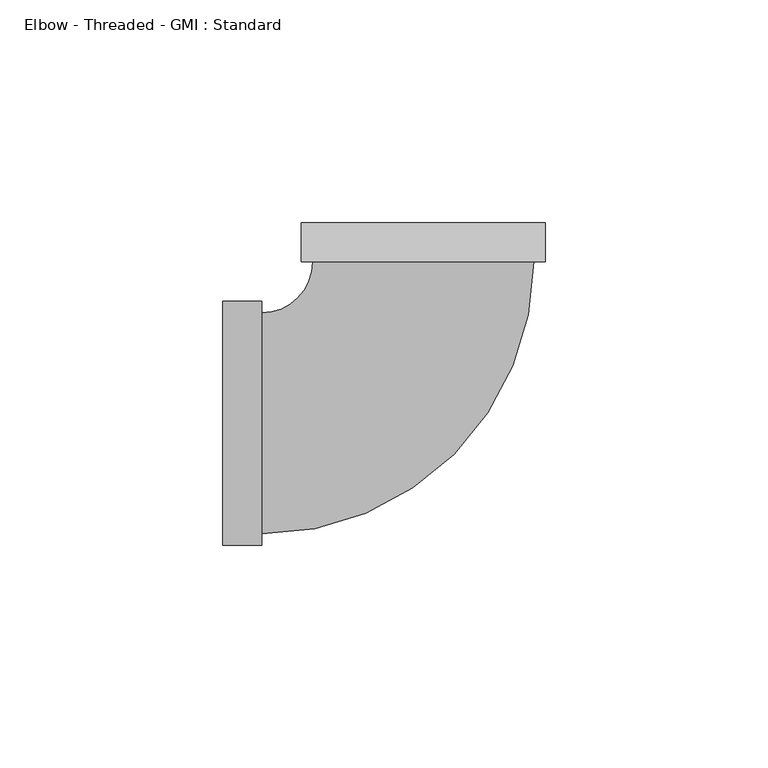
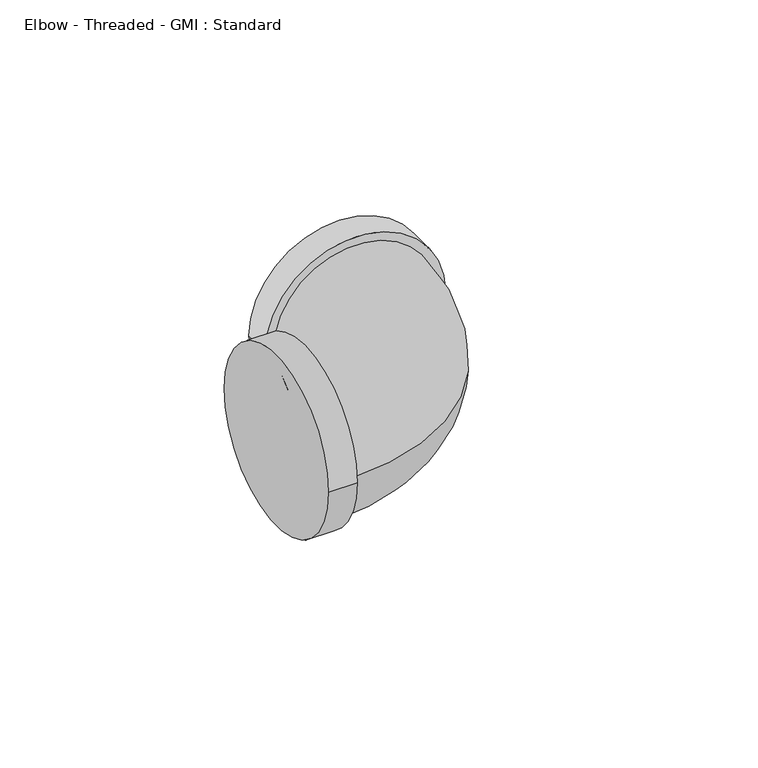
"""IFC4 building model written with IfcOpenShell, lengths in millimetres: pipe fitting geometry, Elbow - Threaded - GMI : Standard."""

from ifc_helpers import new_model, si_unit, point, frame, origin, place, context, project, spatial, circle_curve, ellipse_curve, trimmed, source, transform, mapped, element, save
from ifc_brep_helpers import plane_surface, cylinder_surface, revolved_surface, advanced_brep


def elbow_threaded_gmi_standard_b4aa7741(model_context):
    return source(origin(), model_context, "Body", "AdvancedBrep", [
        advanced_brep(
        [(-45.0, -27.35, 0.0), (-45.0, 27.35, 0.0), (-36.3, -27.35, 0.0), (-36.3, 27.35, 0.0), (-36.3, -24.78, 0.0), (-36.3, 24.78, 0.0), (27.35, 36.3, 0.0), (-27.35, 36.3, 0.0), (-24.78, 36.3, 0.0), (24.78, 36.3, 0.0), (27.35, 45.0, 0.0), (-27.35, 45.0, 0.0)],
        [
            (0, 1, circle_curve(frame((-45.0, 0.0, 0.0), z_axis=(-1.0, 0.0, 0.0), x_axis=(0.0, 1.0, 0.0)), 27.35)),
            (1, 0, circle_curve(frame((-45.0, 0.0, 0.0), z_axis=(-1.0, 0.0, 0.0), x_axis=(0.0, 1.0, 0.0)), 27.35)),
            (2, 3, circle_curve(frame((-36.3, 0.0, 0.0), z_axis=(1.0, 0.0, 0.0), x_axis=(0.0, 1.0, 0.0)), 27.35)),
            (3, 2, circle_curve(frame((-36.3, 0.0, 0.0), z_axis=(1.0, 0.0, 0.0), x_axis=(0.0, 1.0, 0.0)), 27.35)),
            (4, 5, circle_curve(frame((-36.3, 0.0, 0.0), z_axis=(-1.0, 0.0, 0.0), x_axis=(0.0, 1.0, 0.0)), 24.78)),
            (5, 4, circle_curve(frame((-36.3, 0.0, 0.0), z_axis=(-1.0, 0.0, 0.0), x_axis=(0.0, 1.0, 0.0)), 24.78)),
            (0, 2),
            (3, 1),
            (6, 7, circle_curve(frame((0.0, 36.3, 0.0), z_axis=(0.0, -1.0, 0.0), x_axis=(-1.0, 0.0, 0.0)), 27.35)),
            (7, 6, circle_curve(frame((0.0, 36.3, 0.0), z_axis=(0.0, -1.0, 0.0), x_axis=(-1.0, 0.0, 0.0)), 27.35)),
            (8, 9, circle_curve(frame((0.0, 36.3, 0.0), z_axis=(0.0, 1.0, 0.0), x_axis=(-1.0, 0.0, 0.0)), 24.78)),
            (9, 8, circle_curve(frame((0.0, 36.3, 0.0), z_axis=(0.0, 1.0, 0.0), x_axis=(-1.0, 0.0, 0.0)), 24.78)),
            (10, 11, circle_curve(frame((0.0, 45.0, 0.0), z_axis=(0.0, 1.0, 0.0), x_axis=(-1.0, 0.0, 0.0)), 27.35)),
            (11, 10, circle_curve(frame((0.0, 45.0, 0.0), z_axis=(0.0, 1.0, 0.0), x_axis=(-1.0, 0.0, 0.0)), 27.35)),
            (6, 10),
            (11, 7),
            (8, 5, circle_curve(frame((-36.3, 36.3, 0.0), z_axis=(0.0, 0.0, -1.0), x_axis=(0.0, -1.0, 0.0)), 11.52)),
            (4, 9, circle_curve(frame((-36.3, 36.3, 0.0), z_axis=(0.0, 0.0, 1.0), x_axis=(0.0, -1.0, 0.0)), 61.08)),
        ],
        [
            plane_surface(frame((-45.0, 0.0, 0.0), z_axis=(-1.0, 0.0, 0.0), x_axis=(0.0, 0.0, 1.0))),
            plane_surface(frame((-36.3, 0.0, 0.0), z_axis=(1.0, 0.0, 0.0), x_axis=(0.0, 0.0, 1.0))),
            cylinder_surface(frame((-45.0, 0.0, 0.0), z_axis=(-1.0, 0.0, 0.0), x_axis=(0.0, 1.0, 0.0)), 27.35),
            plane_surface(frame((0.0, 36.3, 0.0), z_axis=(0.0, -1.0, 0.0), x_axis=(0.0, 0.0, 1.0))),
            plane_surface(frame((0.0, 45.0, 0.0), z_axis=(0.0, 1.0, 0.0), x_axis=(0.0, 0.0, 1.0))),
            cylinder_surface(frame((0.0, 36.3, 0.0), z_axis=(0.0, -1.0, 0.0), x_axis=(-1.0, 0.0, 0.0)), 27.35),
            revolved_surface(trimmed(ellipse_curve(frame((-36.3, 0.0, 0.0), z_axis=(-1.0, 0.0, 0.0), x_axis=(0.0, 1.0, 0.0)), 24.78, 24.78), [point((-36.3, -24.78, 0.0))], [point((-36.3, 24.78, 0.0))], True, "CARTESIAN"), (-36.3, 36.3, 0.0), (0.0, 0.0, 1.0)),
            revolved_surface(trimmed(ellipse_curve(frame((-36.3, 0.0, 0.0), z_axis=(-1.0, 0.0, 0.0), x_axis=(0.0, 1.0, 0.0)), 24.78, 24.78), [point((-36.3, 24.78, 0.0))], [point((-36.3, -24.78, 0.0))], True, "CARTESIAN"), (-36.3, 36.3, 0.0), (0.0, 0.0, 1.0)),
        ],
        [
            (0, [[1, 2]]),
            (1, [[3, 4], [5, 6]]),
            (2, [[-1, 7, -4, 8]]),
            (2, [[-2, -8, -3, -7]]),
            (3, [[9, 10], [11, 12]]),
            (4, [[13, 14]]),
            (5, [[-9, 15, -14, 16]]),
            (5, [[-10, -16, -13, -15]]),
            (6, [[17, -5, 18, -11]]),
            (7, [[-17, -12, -18, -6]]),
        ],
    ),
    ])


if __name__ == "__main__":
    model = new_model("IFC4")
    model_context = context("Model", 3, world=origin())
    ifc_project = project(units=[si_unit("LENGTHUNIT", "METRE", prefix="MILLI")], contexts=[model_context])
    site = spatial("IfcSite", under=ifc_project)
    building = spatial("IfcBuilding", under=site)
    placement = place(None, origin())
    elbow_threaded_gmi_standard_shape = elbow_threaded_gmi_standard_b4aa7741(model_context)
    element("IfcPipeFitting", 1, ObjectType="Elbow - Threaded - GMI : Standard", at=placement, inside=building, context=model_context, shape_type="MappedRepresentation", body=[
        mapped(elbow_threaded_gmi_standard_shape, transform((0.0, 0.0, 0.0), x_axis=(1.0, 0.0, 0.0), y_axis=(0.0, 1.0, 0.0), z_axis=(0.0, 0.0, 1.0))),
    ])
    save(model, "model.ifc")
